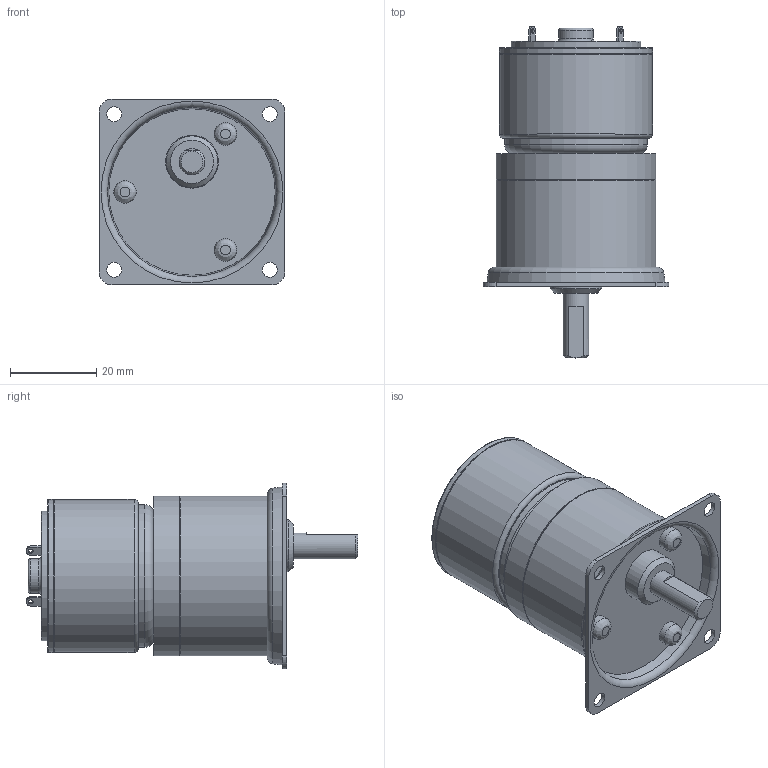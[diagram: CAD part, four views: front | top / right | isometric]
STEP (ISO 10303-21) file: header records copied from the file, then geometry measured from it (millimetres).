
FILE_DESCRIPTION((''),'2;1');
FILE_NAME('C:\Documents and Settings\SSEGAWA\デスクトップ\TP-3526E-PHM-3.STP','2013-07-09T16:14:53',('SSEGAWA'),(''),'Autodesk Inventor 2010','Autodesk Inventor 2010','');
FILE_SCHEMA(('CONFIG_CONTROL_DESIGN'));
Length unit declared in the file: millimetre
Products named in the file (5): tp_3526e_phm_3; phm_3; hm_3; □43; tp_3526e
Assembly tree (4 placements, depth 3):
  tp_3526e_phm_3
    phm_3
      hm_3
      □43
    tp_3526e
Bounding box: 43 x 76.8 x 43 mm (x, y, z)
Volume: 56230.5 mm3; surface area: 15241.6 mm2
Topology: 3 solids, 3 shells, 106 faces, 230 edges, 151 vertices
Faces by surface type: plane 39, cylinder 30, bspline 25, torus 7, cone 5
Full cylindrical faces by diameter (mm): 1.1 x1, 2 x1, 2.4 x1, 5 x1, 5.3 x3, 6 x1, 8 x1, 10 x1, 12 x1, 12.2 x1, 30 x1, 33 x1, 35 x1, 35.4 x2, 36.6 x1, 37 x2
Entity records: 3078 total; most frequent: CARTESIAN_POINT 983, DIRECTION 433, ORIENTED_EDGE 300, EDGE_LOOP 197, AXIS2_PLACEMENT_3D 195, EDGE_CURVE 150, VERTEX_POINT 127, FACE_OUTER_BOUND 106
